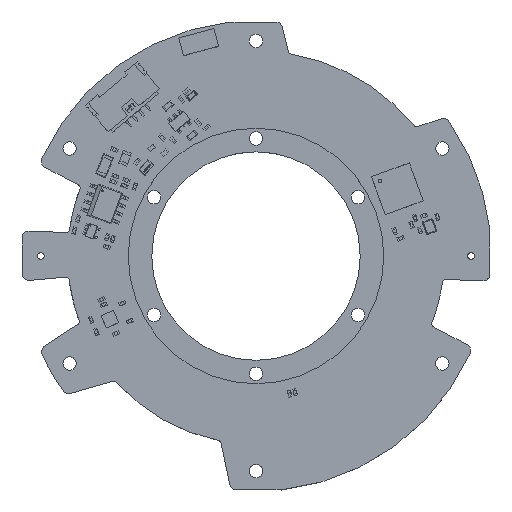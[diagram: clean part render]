
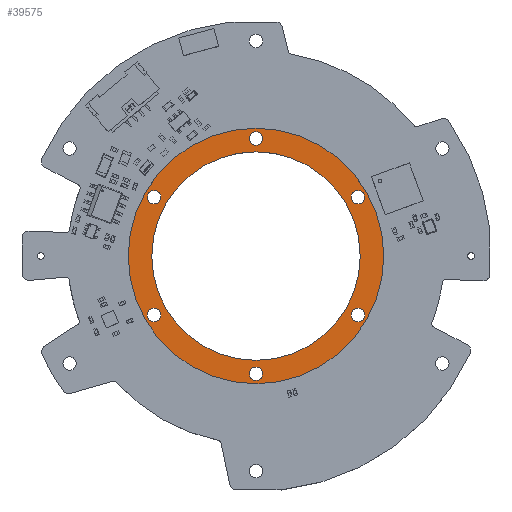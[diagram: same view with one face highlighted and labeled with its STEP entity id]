
A CAD part, top view. The second image highlights one B-rep face of the part: STEP entity #39575.
In plain terms, the highlighted planar face has unit normal (0, 0, 1).
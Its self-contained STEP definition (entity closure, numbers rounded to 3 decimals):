
#35039=PLANE('',#106263);
#39575=ADVANCED_FACE('',(#46644,#46645,#46646,#46647,#46648,#46649,#46650,
#46651),#35039,.T.);
#46644=FACE_BOUND('',#46764,.T.);
#46645=FACE_BOUND('',#46765,.T.);
#46646=FACE_BOUND('',#46766,.T.);
#46647=FACE_BOUND('',#46767,.T.);
#46648=FACE_BOUND('',#46768,.T.);
#46649=FACE_BOUND('',#46769,.T.);
#46650=FACE_BOUND('',#46770,.T.);
#46651=FACE_BOUND('',#46771,.T.);
#46764=EDGE_LOOP('',(#52815));
#46765=EDGE_LOOP('',(#52816));
#46766=EDGE_LOOP('',(#52817));
#46767=EDGE_LOOP('',(#52818));
#46768=EDGE_LOOP('',(#52819));
#46769=EDGE_LOOP('',(#52820));
#46770=EDGE_LOOP('',(#52821));
#46771=EDGE_LOOP('',(#52822));
#52815=ORIENTED_EDGE('',*,*,#89975,.F.);
#52816=ORIENTED_EDGE('',*,*,#89961,.T.);
#52817=ORIENTED_EDGE('',*,*,#89964,.T.);
#52818=ORIENTED_EDGE('',*,*,#89966,.T.);
#52819=ORIENTED_EDGE('',*,*,#89968,.T.);
#52820=ORIENTED_EDGE('',*,*,#89969,.T.);
#52821=ORIENTED_EDGE('',*,*,#89971,.T.);
#52822=ORIENTED_EDGE('',*,*,#89976,.F.);
#80953=VERTEX_POINT('',#142626);
#80956=VERTEX_POINT('',#142633);
#80958=VERTEX_POINT('',#142638);
#80960=VERTEX_POINT('',#142643);
#80961=VERTEX_POINT('',#142646);
#80963=VERTEX_POINT('',#142651);
#80967=VERTEX_POINT('',#142661);
#80968=VERTEX_POINT('',#142663);
#89961=EDGE_CURVE('',#80953,#80953,#104040,.T.);
#89964=EDGE_CURVE('',#80956,#80956,#104043,.T.);
#89966=EDGE_CURVE('',#80958,#80958,#104045,.T.);
#89968=EDGE_CURVE('',#80960,#80960,#104047,.T.);
#89969=EDGE_CURVE('',#80961,#80961,#104048,.T.);
#89971=EDGE_CURVE('',#80963,#80963,#104050,.T.);
#89975=EDGE_CURVE('',#80967,#80967,#104054,.T.);
#89976=EDGE_CURVE('',#80968,#80968,#104055,.T.);
#104040=CIRCLE('',#106240,1.);
#104043=CIRCLE('',#106244,1.);
#104045=CIRCLE('',#106247,1.);
#104047=CIRCLE('',#106250,1.);
#104048=CIRCLE('',#106252,1.);
#104050=CIRCLE('',#106255,1.);
#104054=CIRCLE('',#106261,26.5);
#104055=CIRCLE('',#106262,15.5);
#106240=AXIS2_PLACEMENT_3D('',#142625,#114412,#114413);
#106244=AXIS2_PLACEMENT_3D('',#142632,#114420,#114421);
#106247=AXIS2_PLACEMENT_3D('',#142637,#114426,#114427);
#106250=AXIS2_PLACEMENT_3D('',#142642,#114432,#114433);
#106252=AXIS2_PLACEMENT_3D('',#142645,#114436,#114437);
#106255=AXIS2_PLACEMENT_3D('',#142650,#114442,#114443);
#106261=AXIS2_PLACEMENT_3D('',#142660,#114454,#114455);
#106262=AXIS2_PLACEMENT_3D('',#142662,#114456,#114457);
#106263=AXIS2_PLACEMENT_3D('',#142664,#114458,#114459);
#114412=DIRECTION('',(0.,0.,-1.));
#114413=DIRECTION('',(-0.5,0.866,0.));
#114420=DIRECTION('',(0.,0.,-1.));
#114421=DIRECTION('',(0.5,0.866,0.));
#114426=DIRECTION('',(0.,0.,-1.));
#114427=DIRECTION('',(1.,0.,0.));
#114432=DIRECTION('',(0.,0.,-1.));
#114433=DIRECTION('',(0.5,-0.866,0.));
#114436=DIRECTION('',(0.,0.,-1.));
#114437=DIRECTION('',(-0.5,-0.866,0.));
#114442=DIRECTION('',(0.,0.,-1.));
#114443=DIRECTION('',(-1.,0.,0.));
#114454=DIRECTION('',(0.,0.,-1.));
#114455=DIRECTION('',(1.,0.,0.));
#114456=DIRECTION('',(0.,0.,1.));
#114457=DIRECTION('',(0.,-1.,0.));
#114458=DIRECTION('',(0.,0.,1.));
#114459=DIRECTION('',(0.,-1.,0.));
#142625=CARTESIAN_POINT('',(-15.155,-8.75,1.19));
#142626=CARTESIAN_POINT('',(-15.655,-7.884,1.19));
#142632=CARTESIAN_POINT('',(-15.155,8.75,1.19));
#142633=CARTESIAN_POINT('',(-14.655,9.616,1.19));
#142637=CARTESIAN_POINT('',(0.,17.5,1.19));
#142638=CARTESIAN_POINT('',(1.,17.5,1.19));
#142642=CARTESIAN_POINT('',(15.155,8.75,1.19));
#142643=CARTESIAN_POINT('',(15.655,7.884,1.19));
#142645=CARTESIAN_POINT('',(15.155,-8.75,1.19));
#142646=CARTESIAN_POINT('',(14.655,-9.616,1.19));
#142650=CARTESIAN_POINT('',(0.,-17.5,1.19));
#142651=CARTESIAN_POINT('',(-1.,-17.5,1.19));
#142660=CARTESIAN_POINT('',(0.,0.,1.19));
#142661=CARTESIAN_POINT('',(26.5,0.,1.19));
#142662=CARTESIAN_POINT('',(0.,0.,1.19));
#142663=CARTESIAN_POINT('',(0.,-15.5,1.19));
#142664=CARTESIAN_POINT('',(0.,0.,1.19));
